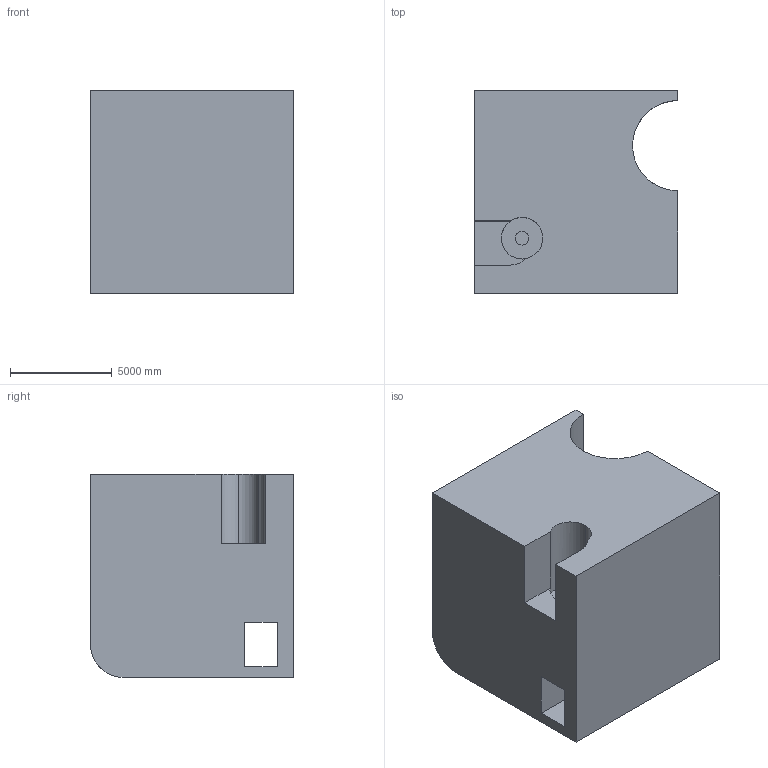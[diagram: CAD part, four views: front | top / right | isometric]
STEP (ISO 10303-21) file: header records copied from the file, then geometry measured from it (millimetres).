
FILE_DESCRIPTION (( 'STEP AP203' ), '1' );
FILE_NAME ('285.STEP', '2022-09-07T12:37:20', ( 'user' ), ( '' ), 'SwSTEP 2.0', 'SolidWorks 2021', '' );
FILE_SCHEMA (( 'CONFIG_CONTROL_DESIGN' ));
Length unit declared in the file: centimetre
Products named in the file (1): 285
Bounding box: 10000 x 10000 x 10000 mm (x, y, z)
Volume: 856926956426.1 mm3; surface area: 693926276.9 mm2
Topology: 1 solids, 1 shells, 23 faces, 60 edges, 40 vertices
Faces by surface type: plane 16, cylinder 7
Entity records: 844 total; most frequent: CARTESIAN_POINT 179, DIRECTION 123, ORIENTED_EDGE 120, EDGE_CURVE 60, VECTOR 43, LINE 43, VERTEX_POINT 40, AXIS2_PLACEMENT_3D 40
